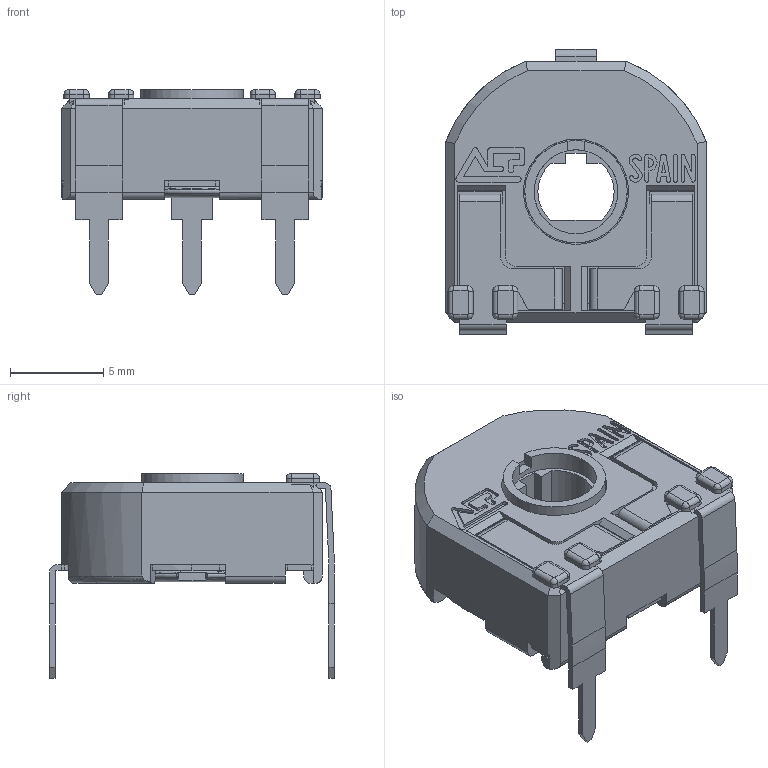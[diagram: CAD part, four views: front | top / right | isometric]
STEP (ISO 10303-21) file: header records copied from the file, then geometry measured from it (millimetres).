
FILE_DESCRIPTION(/* description */ (''),/* implementation_level */ '2;1');
FILE_NAME(/* name */ 'C:\Users\CEM\Desktop\ENVIAR\TRANSICION 3D CATALOGOS\CAR14TV15.stp',/* time_stamp */ '2025-09-22T10:01:17+02:00',/* author */ ('CEM'),/* organization */ (''),/* preprocessor_version */ 'ST-DEVELOPER v17',/* originating_system */ 'Autodesk Inventor 2018',/* authorisation */ '');
FILE_SCHEMA (('AUTOMOTIVE_DESIGN { 1 0 10303 214 3 1 1 }'));
Length unit declared in the file: millimetre
Products named in the file (1): CAR14TV15
Bounding box: 14 x 15.3 x 11 mm (x, y, z)
Volume: 546.1 mm3; surface area: 1554.9 mm2
Topology: 1 solids, 1 shells, 602 faces, 1750 edges, 1124 vertices
Faces by surface type: plane 406, cylinder 148, bspline 20, cone 16, torus 12
Full cylindrical faces by diameter (mm): 1.2 x2, 4.5 x1, 5.5 x1, 5.65 x1, 6.88 x1
Entity records: 20596 total; most frequent: CARTESIAN_POINT 3805, ORIENTED_EDGE 3500, DIRECTION 3287, EDGE_CURVE 1750, LINE 1295, VECTOR 1295, VERTEX_POINT 1124, AXIS2_PLACEMENT_3D 996
